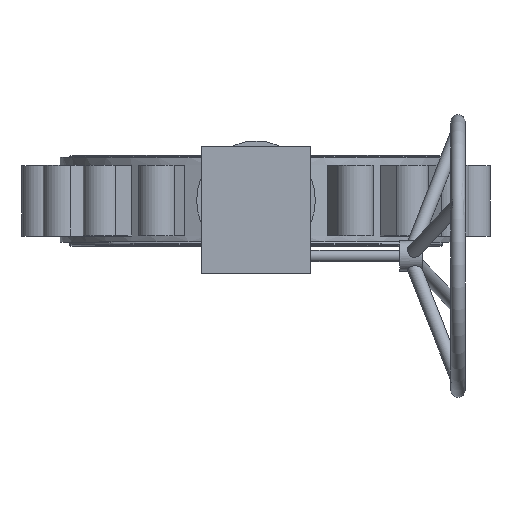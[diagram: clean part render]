
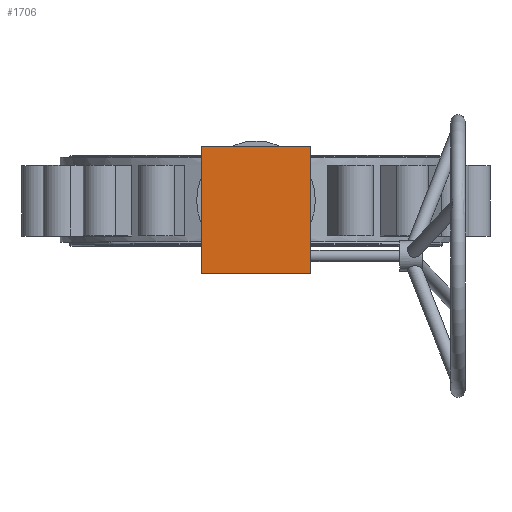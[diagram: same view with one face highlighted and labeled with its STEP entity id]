
A CAD part, top view. The second image highlights one B-rep face of the part: STEP entity #1706.
In plain terms, the highlighted planar face has unit normal (0, 0, 1).
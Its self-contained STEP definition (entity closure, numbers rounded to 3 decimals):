
#900 = CARTESIAN_POINT ( 'NONE',  ( 11.473, 24.186, -745.888 ) ) ;
#936 = LINE ( 'NONE', #5131, #7665 ) ;
#1030 = VECTOR ( 'NONE', #3139, 1000. ) ;
#1116 = EDGE_CURVE ( 'NONE', #4708, #1373, #1870, .T. ) ;
#1373 = VERTEX_POINT ( 'NONE', #6587 ) ;
#1706 = ADVANCED_FACE ( 'NONE', ( #4377 ), #3587, .T. ) ;
#1848 = VECTOR ( 'NONE', #6761, 1000. ) ;
#1870 = LINE ( 'NONE', #7027, #1030 ) ;
#1958 = ORIENTED_EDGE ( 'NONE', *, *, #5814, .T. ) ;
#2079 = VERTEX_POINT ( 'NONE', #8268 ) ;
#2201 = EDGE_CURVE ( 'NONE', #1373, #3534, #3773, .T. ) ;
#3004 = CARTESIAN_POINT ( 'NONE',  ( 11.473, -201.288, -745.888 ) ) ;
#3139 = DIRECTION ( 'NONE',  ( -1., 0., 0. ) ) ;
#3152 = DIRECTION ( 'NONE',  ( 1., 0., 0. ) ) ;
#3180 = EDGE_CURVE ( 'NONE', #3534, #2079, #8229, .T. ) ;
#3313 = ORIENTED_EDGE ( 'NONE', *, *, #3180, .T. ) ;
#3534 = VERTEX_POINT ( 'NONE', #7332 ) ;
#3587 = PLANE ( 'NONE',  #6061 ) ;
#3773 = LINE ( 'NONE', #900, #1848 ) ;
#4377 = FACE_OUTER_BOUND ( 'NONE', #6250, .T. ) ;
#4560 = DIRECTION ( 'NONE',  ( 0., 1., 0. ) ) ;
#4708 = VERTEX_POINT ( 'NONE', #4888 ) ;
#4888 = CARTESIAN_POINT ( 'NONE',  ( 205.969, 24.186, -745.888 ) ) ;
#5131 = CARTESIAN_POINT ( 'NONE',  ( 205.969, 24.186, -745.888 ) ) ;
#5618 = DIRECTION ( 'NONE',  ( 1., 0., 0. ) ) ;
#5747 = VECTOR ( 'NONE', #3152, 1000. ) ;
#5814 = EDGE_CURVE ( 'NONE', #2079, #4708, #936, .T. ) ;
#6061 = AXIS2_PLACEMENT_3D ( 'NONE', #6184, #7475, #5618 ) ;
#6184 = CARTESIAN_POINT ( 'NONE',  ( 108.717, -71.304, -745.888 ) ) ;
#6250 = EDGE_LOOP ( 'NONE', ( #3313, #1958, #6821, #6689 ) ) ;
#6587 = CARTESIAN_POINT ( 'NONE',  ( 11.473, 24.186, -745.888 ) ) ;
#6689 = ORIENTED_EDGE ( 'NONE', *, *, #2201, .T. ) ;
#6761 = DIRECTION ( 'NONE',  ( 0., -1., 0. ) ) ;
#6821 = ORIENTED_EDGE ( 'NONE', *, *, #1116, .T. ) ;
#7027 = CARTESIAN_POINT ( 'NONE',  ( 11.473, 24.186, -745.888 ) ) ;
#7332 = CARTESIAN_POINT ( 'NONE',  ( 11.473, -201.288, -745.888 ) ) ;
#7475 = DIRECTION ( 'NONE',  ( 0., 0., 1. ) ) ;
#7665 = VECTOR ( 'NONE', #4560, 1000. ) ;
#8229 = LINE ( 'NONE', #3004, #5747 ) ;
#8268 = CARTESIAN_POINT ( 'NONE',  ( 205.969, -201.288, -745.888 ) ) ;
